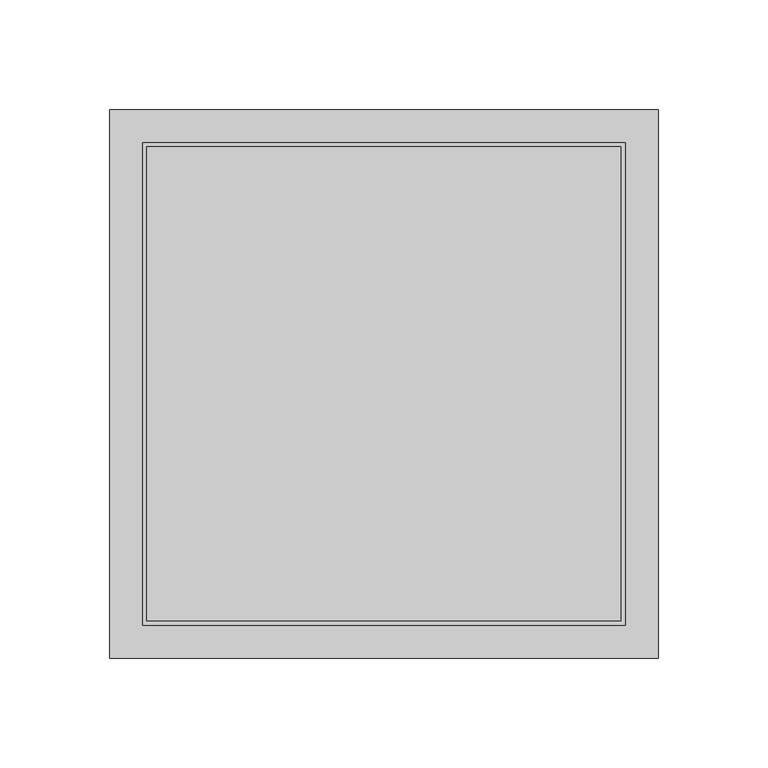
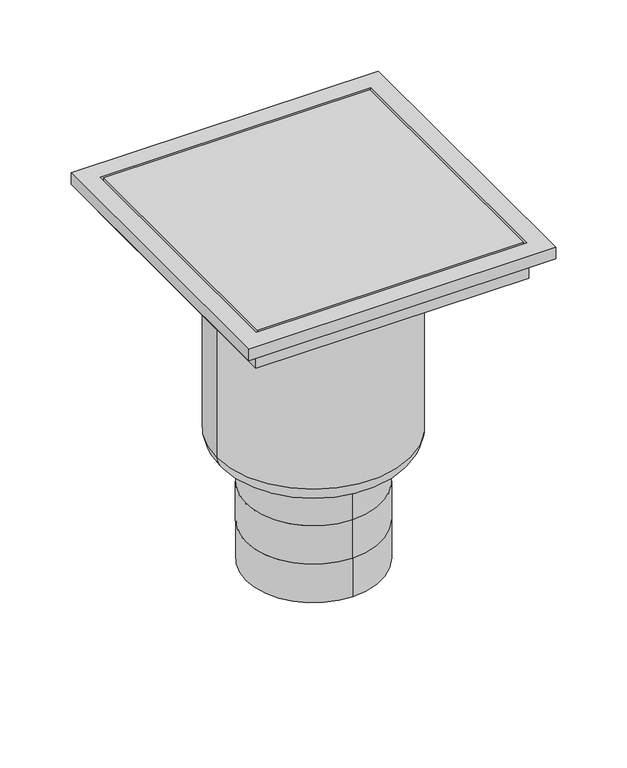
"""IFC4 building model written with IfcOpenShell, lengths in millimetres: sanitary terminal geometry, PF_ST_UN_Siphon telescopics epur hygiene first_ACO : 250 x250 Monolithique hygenic gully 157mm outlet DN110."""

from ifc_helpers import new_model, si_unit, point, frame, origin, origin_2d, place, context, project, spatial, polyline, circle_curve, ellipse_curve, trimmed, segment, composite_curve, outline, extrude, faceted_brep, source, transform, mapped, element, save
from ifc_brep_helpers import plane_surface, cylinder_surface, revolved_surface, advanced_brep


def sanitary_terminal_6a90433f(model_context):
    return source(origin(), model_context, "Body", "SolidModel", [
        advanced_brep(
        [(0.0, -55.0, -419.0), (0.0, 55.0, -419.0), (0.0, -55.0, -386.0), (0.0, 55.0, -386.0), (0.0, -55.0, -353.0), (0.0, 55.0, -353.0), (0.0, 55.0, -320.0), (55.0, 0.0, -320.0), (0.0, -55.0, -320.0), (-55.0, 0.0, -320.0), (78.5, 0.0, -305.0), (-78.5, 0.0, -305.0), (-78.5, 0.0, -158.0), (78.5, 0.0, -158.0), (63.5, 0.0, -320.0), (-63.5, 0.0, -320.0), (-78.5, 0.0, -156.0), (78.5, 0.0, -156.0)],
        [
            (0, 1, circle_curve(frame((0.0, 0.0, -419.0), z_axis=(0.0, 0.0, -1.0), x_axis=(0.0, 1.0, 0.0)), 55.0)),
            (1, 0, circle_curve(frame((0.0, 0.0, -419.0), z_axis=(0.0, 0.0, -1.0), x_axis=(0.0, 1.0, 0.0)), 55.0)),
            (0, 2),
            (2, 3, circle_curve(frame((0.0, 0.0, -386.0), z_axis=(0.0, 0.0, -1.0), x_axis=(0.0, 1.0, 0.0)), 55.0)),
            (3, 1),
            (3, 2, circle_curve(frame((0.0, 0.0, -386.0), z_axis=(0.0, 0.0, -1.0), x_axis=(0.0, 1.0, 0.0)), 55.0)),
            (4, 2),
            (3, 5),
            (5, 4, circle_curve(frame((0.0, 0.0, -353.0), z_axis=(0.0, 0.0, -1.0), x_axis=(1.0, 0.0, 0.0)), 55.0)),
            (4, 5, circle_curve(frame((0.0, 0.0, -353.0), z_axis=(0.0, 0.0, -1.0), x_axis=(-1.0, 0.0, 0.0)), 55.0)),
            (5, 6),
            (6, 7, circle_curve(frame((0.0, 0.0, -320.0), z_axis=(0.0, 0.0, -1.0), x_axis=(0.0, 1.0, 0.0)), 55.0)),
            (7, 8, circle_curve(frame((0.0, 0.0, -320.0), z_axis=(0.0, 0.0, -1.0), x_axis=(0.0, 1.0, 0.0)), 55.0)),
            (8, 4),
            (8, 9, circle_curve(frame((0.0, 0.0, -320.0), z_axis=(0.0, 0.0, -1.0), x_axis=(0.0, 1.0, 0.0)), 55.0)),
            (9, 6, circle_curve(frame((0.0, 0.0, -320.0), z_axis=(0.0, 0.0, -1.0), x_axis=(0.0, 1.0, 0.0)), 55.0)),
            (10, 11, circle_curve(frame((0.0, 0.0, -305.0), z_axis=(0.0, 0.0, 1.0), x_axis=(-1.0, 0.0, 0.0)), 78.5)),
            (11, 12),
            (12, 13, circle_curve(frame((0.0, 0.0, -158.0), z_axis=(0.0, 0.0, -1.0), x_axis=(-1.0, 0.0, 0.0)), 78.5)),
            (13, 10),
            (11, 10, circle_curve(frame((0.0, 0.0, -305.0), z_axis=(0.0, 0.0, 1.0), x_axis=(-1.0, 0.0, 0.0)), 78.5)),
            (13, 12, circle_curve(frame((0.0, 0.0, -158.0), z_axis=(0.0, 0.0, -1.0), x_axis=(-1.0, 0.0, 0.0)), 78.5)),
            (10, 14, circle_curve(frame((63.5, 0.0, -305.0), z_axis=(0.0, 1.0, 0.0), x_axis=(-1.0, 0.0, 0.0)), 15.0)),
            (14, 15, circle_curve(frame((0.0, 0.0, -320.0), z_axis=(0.0, 0.0, 1.0), x_axis=(-1.0, 0.0, 0.0)), 63.5)),
            (15, 11, circle_curve(frame((-63.5, 0.0, -305.0), z_axis=(0.0, 1.0, 0.0), x_axis=(1.0, 0.0, 0.0)), 15.0)),
            (15, 14, circle_curve(frame((0.0, 0.0, -320.0), z_axis=(0.0, 0.0, 1.0), x_axis=(-1.0, 0.0, 0.0)), 63.5)),
            (14, 7),
            (9, 15),
            (16, 17, circle_curve(frame((0.0, 0.0, -156.0), z_axis=(0.0, 0.0, 1.0), x_axis=(1.0, 0.0, 0.0)), 78.5)),
            (17, 16, circle_curve(frame((0.0, 0.0, -156.0), z_axis=(0.0, 0.0, 1.0), x_axis=(1.0, 0.0, 0.0)), 78.5)),
            (16, 12),
            (13, 17),
        ],
        [
            plane_surface(frame((0.0, 55.0, -419.0), z_axis=(0.0, 0.0, -1.0), x_axis=(1.0, 0.0, 0.0))),
            cylinder_surface(frame((0.0, 0.0, -386.0), z_axis=(0.0, 0.0, -1.0), x_axis=(0.0, 1.0, 0.0)), 55.0),
            cylinder_surface(frame((0.0, 0.0, -353.0), z_axis=(0.0, 0.0, -1.0), x_axis=(1.0, 0.0, 0.0)), 55.0),
            cylinder_surface(frame((0.0, 0.0, -353.0), z_axis=(0.0, 0.0, -1.0), x_axis=(-1.0, 0.0, 0.0)), 55.0),
            cylinder_surface(frame((0.0, 0.0, -320.0), z_axis=(0.0, 0.0, -1.0), x_axis=(0.0, 1.0, 0.0)), 55.0),
            cylinder_surface(frame((0.0, 0.0, -96.0), z_axis=(0.0, 0.0, -1.0), x_axis=(-1.0, 0.0, 0.0)), 78.5),
            revolved_surface(trimmed(ellipse_curve(frame((-63.5, 0.0, -305.0), z_axis=(0.0, -1.0, 0.0), x_axis=(1.0, 0.0, 0.0)), 15.0, 15.0), [point((-78.5, 0.0, -305.0))], [point((-63.5, 0.0, -320.0))], True, "CARTESIAN"), (0.0, 0.0, -96.0), (0.0, 0.0, -1.0)),
            plane_surface(frame((0.0, 0.0, -320.0), z_axis=(0.0, 0.0, -1.0), x_axis=(-1.0, 0.0, 0.0))),
            plane_surface(frame((78.5, 0.0, -156.0), z_axis=(0.0, 0.0, 1.0), x_axis=(0.0, 1.0, 0.0))),
            cylinder_surface(frame((0.0, 0.0, -158.0), z_axis=(0.0, 0.0, 1.0), x_axis=(1.0, 0.0, 0.0)), 78.5),
        ],
        [
            (0, [[1, 2]]),
            (1, [[-1, 3, 4, 5]]),
            (1, [[-2, -5, 6, -3]]),
            (2, [[7, -6, 8, 9]]),
            (3, [[-7, 10, -8, -4]]),
            (4, [[11, 12, 13, 14, -9]]),
            (4, [[-11, -10, -14, 15, 16]]),
            (5, [[17, 18, 19, 20]]),
            (5, [[-18, 21, -20, 22]]),
            (6, [[-17, 23, 24, 25]]),
            (6, [[-21, -25, 26, -23]]),
            (7, [[-24, 27, -12, -16, 28]]),
            (7, [[-26, -28, -15, -13, -27]]),
            (8, [[29, 30]]),
            (9, [[-29, 31, -22, 32]]),
            (9, [[-30, -32, -19, -31]]),
        ],
    ),
        extrude(outline(composite_curve([segment(trimmed(circle_curve(origin_2d(), 78.5), [point((-78.5, 0.0))], [point((78.5, 0.0))], False, "CARTESIAN"), True, "CONTINUOUS"), segment(trimmed(circle_curve(origin_2d(), 78.5), [point((78.5, 0.0))], [point((-78.5, 0.0))], False, "CARTESIAN"), True, "CONTINUOUS")], self_intersect=False)), frame((0.0, 0.0, -156.0), z_axis=(0.0, 0.0, 1.0), x_axis=(1.0, 0.0, 0.0)), (0.0, 0.0, 1.0), 6.0),
        faceted_brep([(125.0, 125.0, -130.0), (125.0, 125.0, -120.0), (125.0, -125.0, -120.0), (125.0, -125.0, -130.0), (111.0, 111.0, -150.0), (111.0, 111.0, -130.0), (111.0, -111.0, -130.0), (111.0, -111.0, -150.0), (110.0, -110.0, -120.0), (110.0, 110.0, -120.0), (110.0, 110.0, -140.0), (110.0, -110.0, -140.0), (-125.0, -125.0, -120.0), (-125.0, -125.0, -130.0), (-111.0, -111.0, -130.0), (-111.0, -111.0, -150.0), (-110.0, -110.0, -120.0), (-110.0, -110.0, -140.0), (-125.0, 125.0, -120.0), (-125.0, 125.0, -130.0), (-111.0, 111.0, -130.0), (-111.0, 111.0, -150.0), (-110.0, 110.0, -120.0), (-110.0, 110.0, -140.0)], [[[0, 1, 2, 3]], [[4, 5, 6, 7]], [[8, 9, 10, 11]], [[3, 2, 12, 13]], [[7, 6, 14, 15]], [[16, 8, 11, 17]], [[13, 12, 18, 19]], [[15, 14, 20, 21]], [[22, 16, 17, 23]], [[2, 1, 18, 12], [9, 8, 16, 22]], [[1, 0, 19, 18]], [[0, 3, 13, 19], [6, 5, 20, 14]], [[5, 4, 21, 20]], [[4, 7, 15, 21]], [[9, 22, 23, 10]], [[11, 10, 23, 17]]]),
        extrude(outline(polyline([(108.0, 108.0), (108.0, -108.0), (-108.0, -108.0), (-108.0, 108.0), (108.0, 108.0)])), frame((0.0, 0.0, -140.0), z_axis=(0.0, 0.0, 1.0), x_axis=(1.0, 0.0, 0.0)), (0.0, 0.0, 1.0), 20.0),
    ])


if __name__ == "__main__":
    model = new_model("IFC4")
    model_context = context("Model", 3, world=origin())
    ifc_project = project(units=[si_unit("LENGTHUNIT", "METRE", prefix="MILLI")], contexts=[model_context])
    site = spatial("IfcSite", under=ifc_project)
    building = spatial("IfcBuilding", under=site)
    placement = place(None, origin())
    sanitary_terminal_shape = sanitary_terminal_6a90433f(model_context)
    element("IfcSanitaryTerminal", 1, ObjectType="PF_ST_UN_Siphon telescopics epur hygiene first_ACO : 250 x250 Monolithique hygenic gully 157mm outlet DN110", at=placement, inside=building, context=model_context, shape_type="MappedRepresentation", body=[
        mapped(sanitary_terminal_shape, transform((0.0, 0.0, 0.0), x_axis=(1.0, 0.0, 0.0), y_axis=(0.0, 1.0, 0.0), z_axis=(0.0, 0.0, 1.0))),
    ])
    save(model, "model.ifc")
